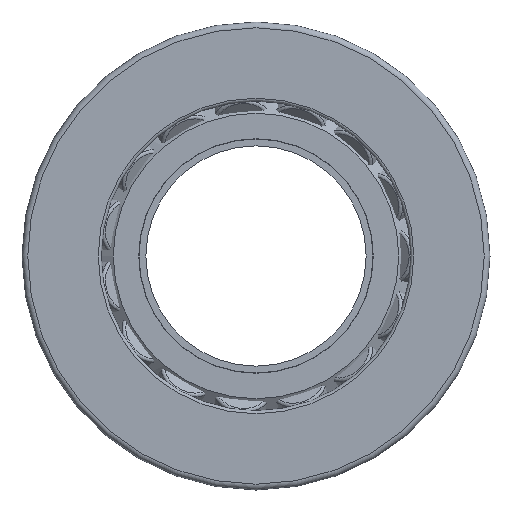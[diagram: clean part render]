
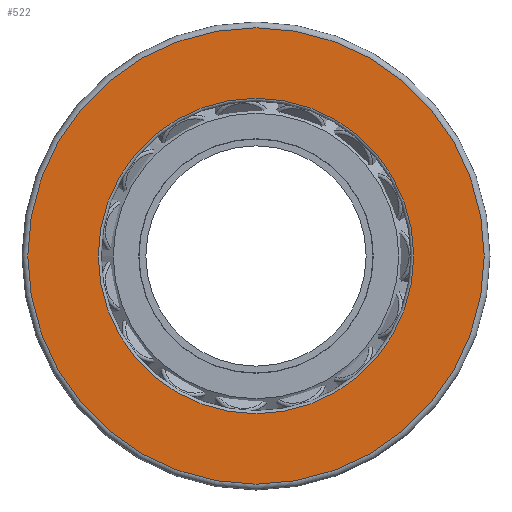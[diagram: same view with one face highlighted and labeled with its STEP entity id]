
A CAD part, front view. The second image highlights one B-rep face of the part: STEP entity #522.
In plain terms, the highlighted planar face has unit normal (0, -1, 0).
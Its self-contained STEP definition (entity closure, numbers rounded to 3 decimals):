
#111=PLANE('',#572);
#135=FACE_BOUND('',#210,.T.);
#167=FACE_OUTER_BOUND('',#209,.T.);
#209=EDGE_LOOP('',(#419));
#210=EDGE_LOOP('',(#420));
#276=CIRCLE('',#570,57.3);
#278=CIRCLE('',#573,82.9);
#321=VERTEX_POINT('',#881);
#323=VERTEX_POINT('',#886);
#366=EDGE_CURVE('',#321,#321,#276,.T.);
#368=EDGE_CURVE('',#323,#323,#278,.T.);
#419=ORIENTED_EDGE('',*,*,#368,.F.);
#420=ORIENTED_EDGE('',*,*,#366,.F.);
#522=ADVANCED_FACE('',(#167,#135),#111,.T.);
#570=AXIS2_PLACEMENT_3D('',#882,#682,#683);
#572=AXIS2_PLACEMENT_3D('',#885,#686,#687);
#573=AXIS2_PLACEMENT_3D('',#887,#688,#689);
#682=DIRECTION('center_axis',(0.,-1.,0.));
#683=DIRECTION('ref_axis',(-1.,0.,0.));
#686=DIRECTION('center_axis',(0.,-1.,0.));
#687=DIRECTION('ref_axis',(0.,0.,-1.));
#688=DIRECTION('center_axis',(0.,1.,0.));
#689=DIRECTION('ref_axis',(-1.,0.,0.));
#881=CARTESIAN_POINT('',(57.3,-27.,0.));
#882=CARTESIAN_POINT('Origin',(0.,-27.,0.));
#885=CARTESIAN_POINT('Origin',(56.25,-27.,0.));
#886=CARTESIAN_POINT('',(82.9,-27.,0.));
#887=CARTESIAN_POINT('Origin',(0.,-27.,0.));
